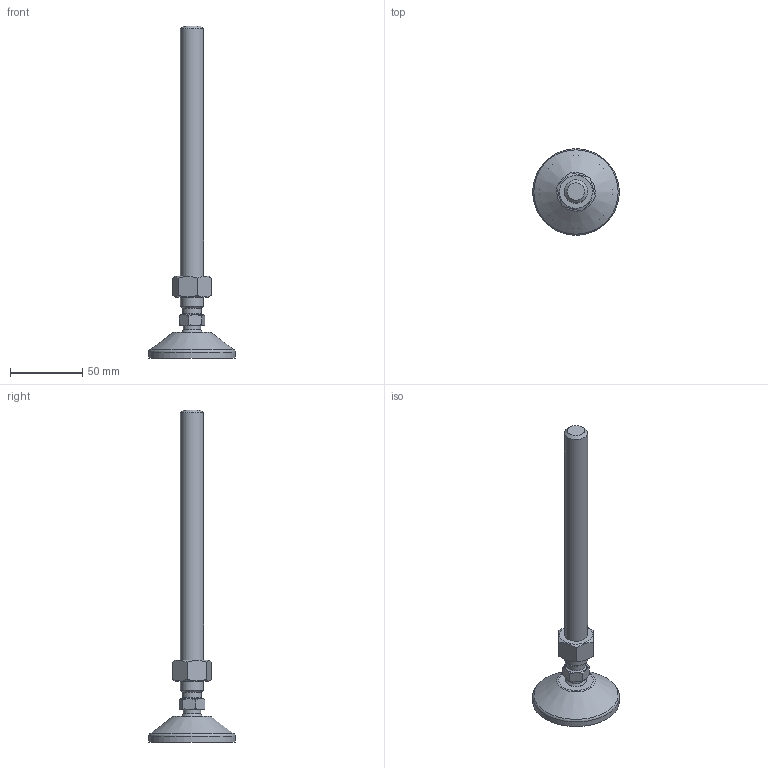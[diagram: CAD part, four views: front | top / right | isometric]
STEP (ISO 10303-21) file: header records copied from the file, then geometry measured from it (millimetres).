
FILE_DESCRIPTION(('STEP AP203'), '1');
FILE_NAME('栖闉罻', '', ('UNSPECIFIED'), ('UNSPECIFIED'), 'C3D Converter', 'C3D Toolkit', '');
FILE_SCHEMA(('CONFIG_CONTROL_DESIGN'));
Length unit declared in the file: millimetre
Products named in the file (4): A00020.116200; A00015.1060
Assembly tree (3 placements, depth 3):
  (unnamed)
    A00020.116200
      (unnamed)
    A00015.1060
Bounding box: 60 x 60 x 230 mm (x, y, z)
Volume: 68159.3 mm3; surface area: 23686 mm2
Topology: 3 solids, 3 shells, 163 faces, 430 edges, 285 vertices
Faces by surface type: plane 86, cylinder 34, torus 21, cone 20, sphere 2
Full cylindrical faces by diameter (mm): 4 x8, 12 x1, 13 x1, 13.835 x1, 14.3 x1, 15 x2, 15.5 x1, 16 x1, 50.5 x1, 60 x1
Entity records: 8670 total; most frequent: CARTESIAN_POINT 3262, DIRECTION 814, ORIENTED_EDGE 790, EDGE_CURVE 395, AXIS2_PLACEMENT_3D 337, VERTEX_POINT 284, EDGE_LOOP 211, FACE_BOUND 174
